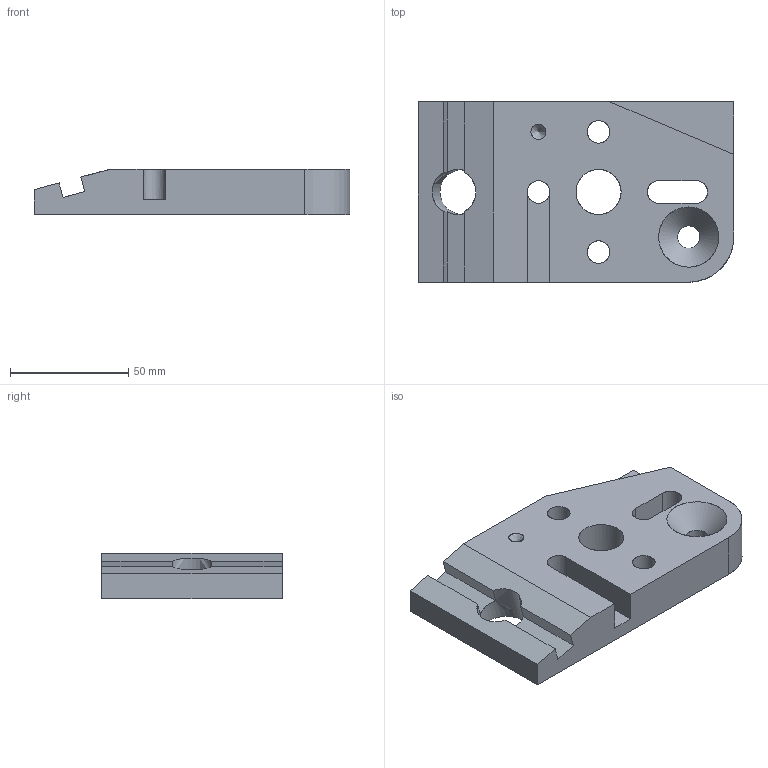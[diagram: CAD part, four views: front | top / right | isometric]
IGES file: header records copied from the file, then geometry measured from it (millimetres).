
Start section: SolidWorks IGES file using analytic representation for surfaces
Global section: file name: C:\Users\ahegedes\OneDrive - Haas Automation, Inc\Documents\Work\_By Project\_HMM430 Project\IMTS Demo Files\CW Demo Block\Inch Version\DemoBlock_inch_nosplit.IGS; native system: SolidWorks 2022; preprocessor: SolidWorks 2022; author: ahegedes; date: 241031.100034; units: inch
Bounding box: 133.35 x 76.2 x 19.05 mm (x, y, z)
Surface area: 31410.5 mm2 (no closed solid volume)
Topology: 0 solids, 0 shells, 33 faces, 820 edges, 884 vertices
Faces by surface type: bspline 22, revolution 11
